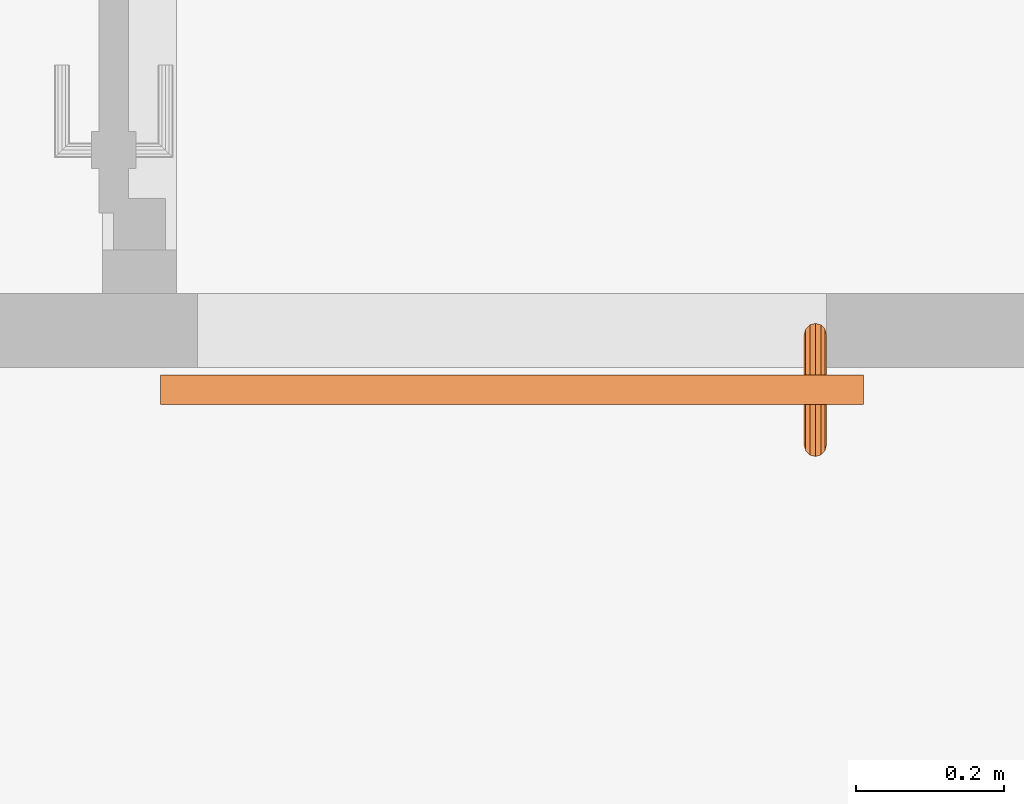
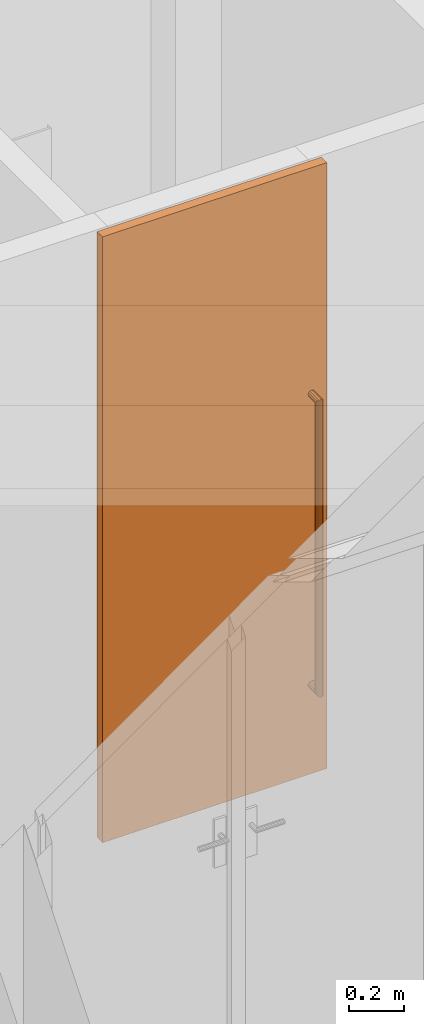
"""IFC4 building model written with IfcOpenShell, lengths in metres."""

from ifc_helpers import new_model, entity, si_unit, converted_unit, derived_unit, frame, origin, origin_with_axes, place, context, subcontext, project, spatial, faceted_brep, source, transform, mapped, element, save


model = new_model("IFC4")

# Units and contexts
model_context = context("Model", 3, precision=1e-05, world=origin())
body_context = subcontext(model_context, "Body", "Model", "MODEL_VIEW")
ifc_project = project(units=[si_unit("LENGTHUNIT", "METRE"), si_unit("AREAUNIT", "SQUARE_METRE"), si_unit("VOLUMEUNIT", "CUBIC_METRE"), si_unit("MASSUNIT", "GRAM", prefix="KILO"), converted_unit("PLANEANGLEUNIT", "DEGREE", entity("IfcPlaneAngleMeasure", 0.0174532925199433), si_unit("PLANEANGLEUNIT", "RADIAN"), dimensions=[0, 0, 0, 0, 0, 0, 0]), derived_unit("THERMALTRANSMITTANCEUNIT", [(si_unit("POWERUNIT", "WATT"), 1), (si_unit("THERMODYNAMICTEMPERATUREUNIT", "KELVIN"), -1), (si_unit("LENGTHUNIT", "METRE"), -2)]), derived_unit("VOLUMETRICFLOWRATEUNIT", [(si_unit("LENGTHUNIT", "METRE"), 3), (converted_unit("TIMEUNIT", "hour", entity("IfcTimeMeasure", 3600.0), si_unit("TIMEUNIT", "SECOND"), dimensions=[0, 0, 1, 0, 0, 0, 0]), -1), (si_unit("LENGTHUNIT", "METRE"), -1)])], contexts=[model_context])

# Building, storeys
building_placement = place(None, origin())
building = spatial("IfcBuilding", under=ifc_project, at=building_placement, Name="HABITATGE PLURIFAMILIAR", CompositionType="ELEMENT")
storey_1_placement = place(building_placement, frame((0.0, 0.0, 12.27)))
storey_1 = spatial("IfcBuildingStorey", under=building, at=storey_1_placement, Name="PLANTA TERCERA", CompositionType="ELEMENT", Elevation=12.27)
storey_2_placement = place(storey_1_placement, frame((0.0, 0.0, 9.26)))
storey_2 = spatial("IfcBuildingStorey", under=storey_1, at=storey_2_placement, Name="NOU", CompositionType="PARTIAL")

# Proxy
shared_shape = source(origin_with_axes(), body_context, "Body", "Brep", [
    faceted_brep([(0.0, 0.11, 2.71), (0.0, 0.11, 0.0), (0.95, 0.11, 0.0), (0.95, 0.11, 2.71), (0.0, 0.0699999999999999, 0.0), (0.0, 0.0700000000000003, 2.71), (0.95, 0.0700000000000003, 2.71), (0.95, 0.0699999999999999, 0.0)], [[[0, 1, 2, 3]], [[4, 5, 6, 7]], [[1, 0, 5, 4]], [[2, 1, 4, 7]], [[3, 2, 7, 6]], [[0, 3, 6, 5]]], orient=[[False], [False], [False], [False], [False], [False]]),
    faceted_brep([(0.08, 0.0700000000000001, 1.7), (0.0779903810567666, 0.0700000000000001, 1.7075), (0.0725, 0.0700000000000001, 1.71299038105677), (0.065, 0.0700000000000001, 1.715), (0.0575, 0.0700000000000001, 1.71299038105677), (0.0520096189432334, 0.0700000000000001, 1.7075), (0.05, 0.0700000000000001, 1.7), (0.0520096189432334, 0.0700000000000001, 1.6925), (0.0575, 0.0700000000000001, 1.68700961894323), (0.065, 0.0700000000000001, 1.685), (0.0725, 0.0700000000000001, 1.68700961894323), (0.0779903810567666, 0.0700000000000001, 1.6925), (0.08, 0.0150000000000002, 1.7), (0.0779903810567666, 0.00750000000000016, 1.7075), (0.0725, 0.00200961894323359, 1.71299038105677), (0.065, 0.0, 1.715), (0.0575, 0.00200961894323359, 1.71299038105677), (0.0520096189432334, 0.00750000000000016, 1.7075), (0.05, 0.0150000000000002, 1.7), (0.0520096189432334, 0.0225000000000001, 1.6925), (0.0575, 0.0279903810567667, 1.68700961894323), (0.065, 0.0300000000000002, 1.685), (0.0725, 0.0279903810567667, 1.68700961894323), (0.0779903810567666, 0.0225000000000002, 1.6925), (0.08, 0.015, 0.4), (0.0779903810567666, 0.00749999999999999, 0.3925), (0.0725, 0.00200961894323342, 0.387009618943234), (0.065, 0.0, 0.385), (0.0575, 0.00200961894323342, 0.387009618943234), (0.0520096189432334, 0.00749999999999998, 0.3925), (0.05, 0.015, 0.4), (0.0520096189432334, 0.0225, 0.4075), (0.0575, 0.0279903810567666, 0.412990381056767), (0.065, 0.03, 0.415), (0.0725, 0.0279903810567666, 0.412990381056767), (0.0779903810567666, 0.0225, 0.4075), (0.0800000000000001, 0.07, 0.4), (0.0779903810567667, 0.07, 0.4075), (0.0725000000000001, 0.07, 0.412990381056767), (0.0650000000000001, 0.07, 0.415), (0.0575000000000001, 0.07, 0.412990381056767), (0.0520096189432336, 0.07, 0.4075), (0.0500000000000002, 0.07, 0.4), (0.0520096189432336, 0.07, 0.3925), (0.0575000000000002, 0.07, 0.387009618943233), (0.0650000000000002, 0.07, 0.385), (0.0725000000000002, 0.07, 0.387009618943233), (0.0779903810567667, 0.07, 0.3925)], [[[0, 1, 2, 3, 4, 5, 6, 7, 8, 9, 10, 11]], [[0, 12, 13, 1]], [[1, 13, 14, 2]], [[2, 14, 15, 3]], [[3, 15, 16, 4]], [[4, 16, 17, 5]], [[5, 17, 18, 6]], [[6, 18, 19, 7]], [[7, 19, 20, 8]], [[8, 20, 21, 9]], [[9, 21, 22, 10]], [[10, 22, 23, 11]], [[11, 23, 12, 0]], [[12, 24, 25, 13]], [[13, 25, 26, 14]], [[14, 26, 27, 15]], [[15, 27, 28, 16]], [[16, 28, 29, 17]], [[17, 29, 30, 18]], [[18, 30, 31, 19]], [[19, 31, 32, 20]], [[20, 32, 33, 21]], [[21, 33, 34, 22]], [[22, 34, 35, 23]], [[23, 35, 24, 12]], [[36, 37, 38, 39, 40, 41, 42, 43, 44, 45, 46, 47]], [[24, 36, 47, 25]], [[25, 47, 46, 26]], [[26, 46, 45, 27]], [[27, 45, 44, 28]], [[28, 44, 43, 29]], [[29, 43, 42, 30]], [[30, 42, 41, 31]], [[31, 41, 40, 32]], [[32, 40, 39, 33]], [[33, 39, 38, 34]], [[34, 38, 37, 35]], [[35, 37, 36, 24]]], orient=[[False], [False], [False], [False], [False], [False], [False], [False], [False], [False], [False], [False], [False], [False], [False], [False], [False], [False], [False], [False], [False], [False], [False], [False], [False], [False], [False], [False], [False], [False], [False], [False], [False], [False], [False], [False], [False], [False]]),
    faceted_brep([(0.08, 0.11, 1.7), (0.0779903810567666, 0.11, 1.6925), (0.0725, 0.11, 1.68700961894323), (0.065, 0.11, 1.685), (0.0575, 0.11, 1.68700961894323), (0.0520096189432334, 0.11, 1.6925), (0.05, 0.11, 1.7), (0.0520096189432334, 0.11, 1.7075), (0.0575, 0.11, 1.71299038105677), (0.065, 0.11, 1.715), (0.0725, 0.11, 1.71299038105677), (0.0779903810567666, 0.11, 1.7075), (0.0779903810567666, 0.1725, 1.7075), (0.08, 0.165, 1.7), (0.0725, 0.177990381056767, 1.71299038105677), (0.065, 0.18, 1.715), (0.0575, 0.177990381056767, 1.71299038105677), (0.0520096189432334, 0.1725, 1.7075), (0.05, 0.165, 1.7), (0.0520096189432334, 0.1575, 1.6925), (0.0575, 0.152009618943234, 1.68700961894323), (0.065, 0.15, 1.685), (0.0725, 0.152009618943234, 1.68700961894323), (0.0779903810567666, 0.1575, 1.6925), (0.0779903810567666, 0.1725, 0.3925), (0.08, 0.165, 0.4), (0.0725, 0.177990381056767, 0.387009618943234), (0.065, 0.18, 0.385), (0.0575, 0.177990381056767, 0.387009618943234), (0.0520096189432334, 0.1725, 0.3925), (0.05, 0.165, 0.4), (0.0520096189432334, 0.1575, 0.4075), (0.0575, 0.152009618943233, 0.412990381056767), (0.065, 0.15, 0.415), (0.0725, 0.152009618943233, 0.412990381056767), (0.0779903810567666, 0.1575, 0.4075), (0.0800000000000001, 0.11, 0.4), (0.0779903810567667, 0.11, 0.3925), (0.0725000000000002, 0.11, 0.387009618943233), (0.0650000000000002, 0.11, 0.385), (0.0575000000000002, 0.11, 0.387009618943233), (0.0520096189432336, 0.11, 0.3925), (0.0500000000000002, 0.11, 0.4), (0.0520096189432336, 0.11, 0.4075), (0.0575000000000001, 0.11, 0.412990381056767), (0.0650000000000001, 0.11, 0.415), (0.0725000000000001, 0.11, 0.412990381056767), (0.0779903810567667, 0.11, 0.4075)], [[[0, 1, 2, 3, 4, 5, 6, 7, 8, 9, 10, 11]], [[0, 11, 12, 13]], [[11, 10, 14, 12]], [[10, 9, 15, 14]], [[9, 8, 16, 15]], [[8, 7, 17, 16]], [[7, 6, 18, 17]], [[6, 5, 19, 18]], [[5, 4, 20, 19]], [[4, 3, 21, 20]], [[3, 2, 22, 21]], [[2, 1, 23, 22]], [[1, 0, 13, 23]], [[13, 12, 24, 25]], [[12, 14, 26, 24]], [[14, 15, 27, 26]], [[15, 16, 28, 27]], [[16, 17, 29, 28]], [[17, 18, 30, 29]], [[18, 19, 31, 30]], [[19, 20, 32, 31]], [[20, 21, 33, 32]], [[21, 22, 34, 33]], [[22, 23, 35, 34]], [[23, 13, 25, 35]], [[36, 37, 38, 39, 40, 41, 42, 43, 44, 45, 46, 47]], [[25, 24, 37, 36]], [[24, 26, 38, 37]], [[26, 27, 39, 38]], [[27, 28, 40, 39]], [[28, 29, 41, 40]], [[29, 30, 42, 41]], [[30, 31, 43, 42]], [[31, 32, 44, 43]], [[32, 33, 45, 44]], [[33, 34, 46, 45]], [[34, 35, 47, 46]], [[35, 25, 36, 47]]], orient=[[False], [False], [False], [False], [False], [False], [False], [False], [False], [False], [False], [False], [False], [False], [False], [False], [False], [False], [False], [False], [False], [False], [False], [False], [False], [False], [False], [False], [False], [False], [False], [False], [False], [False], [False], [False], [False], [False]]),
])
proxy_placement = place(storey_2_placement, frame((409.915355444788, 25.8894598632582, -9.36), z_axis=(0.0, 0.0, 1.0), x_axis=(-1.0, 1.22464679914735e-16, 0.0)))
element("IfcBuildingElementProxy", 1, at=proxy_placement, inside=storey_2, Name="Porta P3", context=body_context, shape_type="MappedRepresentation", body=[
    mapped(shared_shape, transform((0.0, 0.0, 0.0), x_axis=(1.0, 0.0, 0.0), y_axis=(0.0, 1.0, 0.0), z_axis=(0.0, 0.0, 1.0), scale=1.0)),
])

save(model, "model.ifc")
